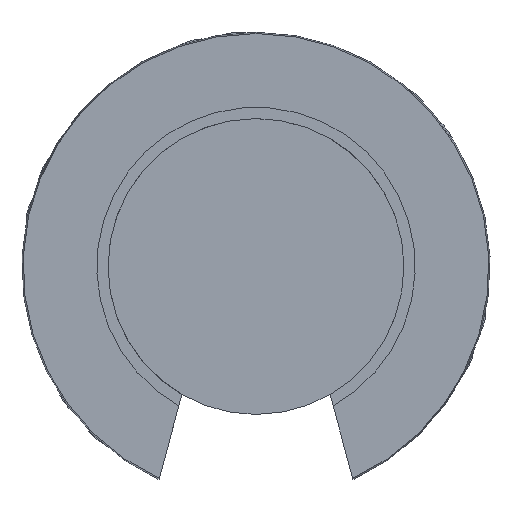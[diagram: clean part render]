
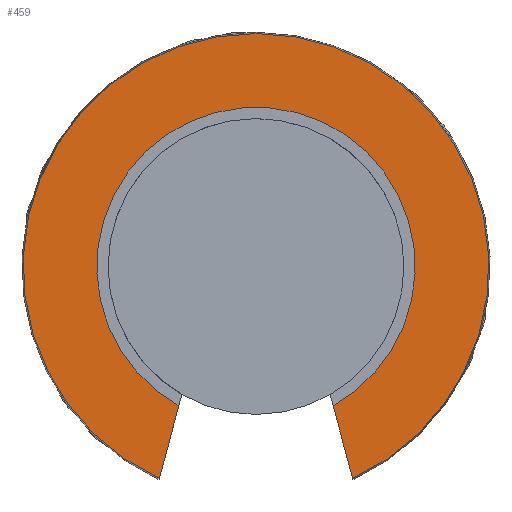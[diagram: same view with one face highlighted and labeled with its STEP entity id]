
A CAD part, front view. The second image highlights one B-rep face of the part: STEP entity #459.
In plain terms, the highlighted planar face has unit normal (0, -1, 0).
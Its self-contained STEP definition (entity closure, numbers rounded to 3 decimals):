
#195=CARTESIAN_POINT('',(12.447,-38.1,-27.296));
#196=VERTEX_POINT('',#195);
#203=CARTESIAN_POINT('',(9.938,-38.1,-17.93));
#204=VERTEX_POINT('',#203);
#205=CARTESIAN_POINT('',(9.938,-38.1,-17.93));
#206=DIRECTION('',(0.259,0.0,-0.966));
#207=VECTOR('',#206,9.696);
#208=LINE('',#205,#207);
#209=EDGE_CURVE('',#204,#196,#208,.T.);
#235=CARTESIAN_POINT('',(-9.938,-38.1,-17.93));
#236=VERTEX_POINT('',#235);
#243=CARTESIAN_POINT('',(-12.447,-38.1,-27.296));
#244=VERTEX_POINT('',#243);
#245=CARTESIAN_POINT('',(-12.447,-38.1,-27.296));
#246=DIRECTION('',(0.259,0.0,0.966));
#247=VECTOR('',#246,9.696);
#248=LINE('',#245,#247);
#249=EDGE_CURVE('',#244,#236,#248,.T.);
#424=CARTESIAN_POINT('',(0.0,-38.1,0.0));
#425=DIRECTION('',(0.0,1.0,0.0));
#426=DIRECTION('',(-1.0,0.0,0.0));
#427=AXIS2_PLACEMENT_3D('',#424,#425,#426);
#428=CIRCLE('',#427,20.5);
#429=EDGE_CURVE('',#236,#204,#428,.T.);
#442=CARTESIAN_POINT('',(-25.25,-38.1,0.0));
#443=DIRECTION('',(0.0,-1.0,0.0));
#444=DIRECTION('',(0.0,0.0,-1.0));
#445=AXIS2_PLACEMENT_3D('',#442,#443,#444);
#446=PLANE('',#445);
#447=ORIENTED_EDGE('',*,*,#209,.T.);
#448=CARTESIAN_POINT('',(0.0,-38.1,0.0));
#449=DIRECTION('',(0.0,1.0,0.0));
#450=DIRECTION('',(-1.0,0.0,0.0));
#451=AXIS2_PLACEMENT_3D('',#448,#449,#450);
#452=CIRCLE('',#451,30.0);
#453=EDGE_CURVE('',#244,#196,#452,.T.);
#454=ORIENTED_EDGE('',*,*,#453,.F.);
#455=ORIENTED_EDGE('',*,*,#249,.T.);
#456=ORIENTED_EDGE('',*,*,#429,.T.);
#457=EDGE_LOOP('',(#447,#454,#455,#456));
#458=FACE_OUTER_BOUND('',#457,.T.);
#459=ADVANCED_FACE('',(#458),#446,.T.);
